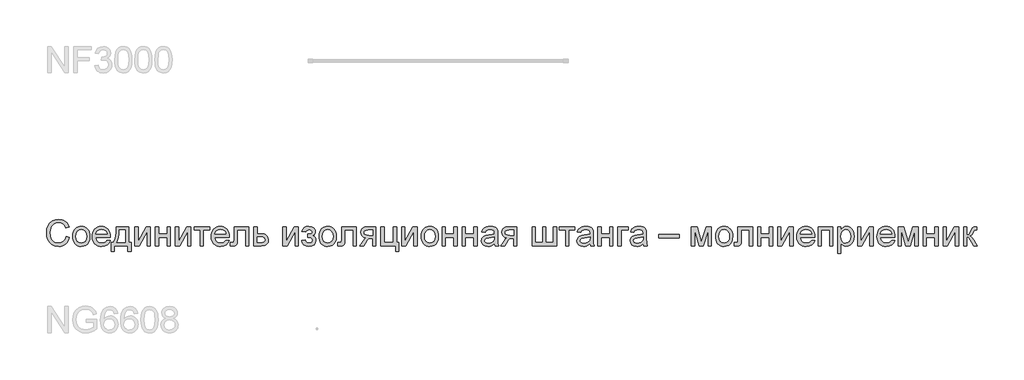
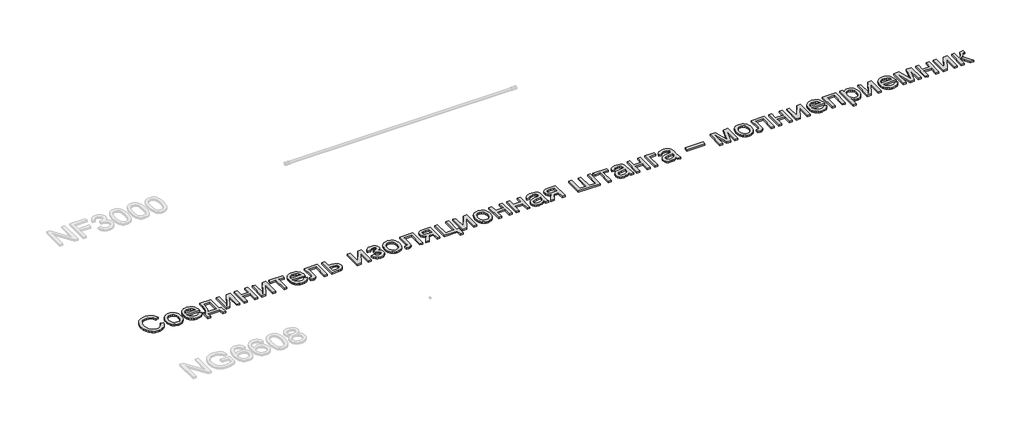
# One storey, part 22 of 124: 1 proxy.
"""IFC4 building model written with IfcOpenShell, lengths in millimetres."""

import ifcopenshell
import ifcopenshell.guid

model = None  # the IFC model being written
_history = None  # IfcOwnerHistory: only IFC2X3 demands one
_inside = {}  # id of a spatial element -> (the spatial element, [elements in it])
_under = {}  # id of a project, library or spatial element -> (it, [spatial elements below it])
_declared = {}  # id of a project -> (the project, [libraries it declares])
_typed = {}  # id of a type object -> (the type object, [elements of that type])
_made_of = {}  # id of a material, layer set ... -> (it, [elements and type objects made of it])


def new_model(schema):
    """Start an empty IFC model of exactly this schema.

    Asked for "IFC4X3", IfcOpenShell would pick the latest addendum, in which some entities
    have other attributes; the version numbers below select the first issue.
    IFC2X3 requires an IfcOwnerHistory on every rooted entity: one is made here for all.
    """
    global model, _history
    if schema == "IFC4X3":
        model = ifcopenshell.file(schema_version=(4, 3, 0, 0))
    else:
        model = ifcopenshell.file(schema=schema)
    _inside.clear()
    _under.clear()
    _declared.clear()
    _typed.clear()
    _made_of.clear()
    _history = None
    if model.schema == "IFC2X3":
        org = make("IfcOrganization", Name="unknown")
        user = make(
            "IfcPersonAndOrganization",
            ThePerson=make("IfcPerson", FamilyName="unknown"),
            TheOrganization=org,
        )
        app = make(
            "IfcApplication",
            ApplicationDeveloper=org,
            Version="unknown",
            ApplicationFullName="unknown",
            ApplicationIdentifier="unknown",
        )
        _history = make(
            "IfcOwnerHistory",
            OwningUser=user,
            OwningApplication=app,
            ChangeAction="ADDED",
            CreationDate=0,
        )
    return model


def make(cls, **values):
    """One entity of the class cls with the attributes given. An attribute that is None is left unset."""
    return model.create_entity(
        cls, **{name: value for name, value in values.items() if value is not None}
    )


def rooted(cls, **values):
    """An entity with a GlobalId (a new one), such as an element, a storey or a relation."""
    return make(cls, GlobalId=ifcopenshell.guid.new(), OwnerHistory=_history, **values)


def si_unit(unit_type, name, prefix=None):
    """IfcSIUnit, for example si_unit("LENGTHUNIT", "METRE", prefix="MILLI")."""
    return make("IfcSIUnit", UnitType=unit_type, Prefix=prefix, Name=name)


def assignment(units):
    """IfcUnitAssignment: the units of a project."""
    return None if units is None else make("IfcUnitAssignment", Units=units)


def point(xyz):
    """IfcCartesianPoint."""
    return None if xyz is None else make("IfcCartesianPoint", Coordinates=xyz)


def direction(xyz):
    """IfcDirection."""
    return None if xyz is None else make("IfcDirection", DirectionRatios=xyz)


def frame(location, z_axis=None, x_axis=None):
    """IfcAxis2Placement3D, a coordinate frame: its origin and axes. An axis left out is left unset."""
    return make(
        "IfcAxis2Placement3D",
        Location=point(location),
        Axis=direction(z_axis),
        RefDirection=direction(x_axis),
    )


def origin():
    """The frame at (0, 0, 0) with its axes left unset."""
    return frame((0.0, 0.0, 0.0))


def origin_with_axes():
    """The frame at (0, 0, 0) with the z axis (0, 0, 1) and the x axis (1, 0, 0) written out."""
    return frame((0.0, 0.0, 0.0), z_axis=(0.0, 0.0, 1.0), x_axis=(1.0, 0.0, 0.0))


def place(relative_to, where):
    """IfcLocalPlacement: puts the frame where relative to a parent placement (None: the world)."""
    return make(
        "IfcLocalPlacement", PlacementRelTo=relative_to, RelativePlacement=where
    )


def context(
    kind, dimensions, precision=None, world=None, true_north=None, identifier=None
):
    """IfcGeometricRepresentationContext, for example the 3D "Model" context."""
    return make(
        "IfcGeometricRepresentationContext",
        ContextIdentifier=identifier,
        ContextType=kind,
        CoordinateSpaceDimension=dimensions,
        Precision=precision,
        WorldCoordinateSystem=world,
        TrueNorth=true_north,
    )


def project(units=None, contexts=None):
    """IfcProject with its units and contexts."""
    return rooted(
        "IfcProject",
        Name="project",
        RepresentationContexts=contexts,
        UnitsInContext=assignment(units),
    )


def spatial(cls, under=None, at=None, **own):
    """A site, building, storey or space (cls), placed at a placement, below another one or the project."""
    s = rooted(cls, ObjectPlacement=at, **own)
    if under is not None:
        _under.setdefault(under.id(), (under, []))[1].append(s)
    return s


def polyline(points):
    """IfcPolyline through the points."""
    return make("IfcPolyline", Points=[point(p) for p in points])


def outline(outer, holes=None, kind="AREA"):
    """IfcArbitraryClosedProfileDef: a profile drawn as a closed curve; with holes, ...WithVoids."""
    if holes is None:
        return make("IfcArbitraryClosedProfileDef", ProfileType=kind, OuterCurve=outer)
    return make(
        "IfcArbitraryProfileDefWithVoids",
        ProfileType=kind,
        OuterCurve=outer,
        InnerCurves=holes,
    )


def extrude(swept, where, along, depth):
    """IfcExtrudedAreaSolid: the profile swept, set in the frame where, extruded along a direction by depth."""
    return make(
        "IfcExtrudedAreaSolid",
        SweptArea=swept,
        Position=where,
        ExtrudedDirection=direction(along),
        Depth=depth,
    )


def shape(context_of_items, identifier, shape_type, items):
    """IfcShapeRepresentation: the items that make up one representation, for example the "Body"."""
    return make(
        "IfcShapeRepresentation",
        ContextOfItems=context_of_items,
        RepresentationIdentifier=identifier,
        RepresentationType=shape_type,
        Items=items,
    )


def made_of(thing, what):
    """Note that an element or type object is made of a material, layer set ...; save() writes the relation."""
    if what is not None:
        _made_of.setdefault(what.id(), (what, []))[1].append(thing)
    return thing


def element(
    cls,
    number,
    at=None,
    inside=None,
    cuts=None,
    type_object=None,
    material=None,
    context=None,
    identifier="Body",
    shape_type=None,
    held_by="IfcProductDefinitionShape",
    body=None,
    shapes=None,
    **own,
):
    """One element of the class cls, such as IfcWall. Its Tag is "e" and its number.

    at: its placement. inside: the storey or other place that contains it. cuts: it is an
    opening in that element (IfcRelVoidsElement). A single representation is given by context,
    identifier, shape_type and body (its items); several are given by shapes. held_by: the class
    of the entity that holds the representations. save() writes the other relations.
    """
    e = rooted(cls, Tag="e%d" % number, ObjectPlacement=at, **own)
    if body is not None:
        shapes = [shape(context, identifier, shape_type, body)]
    if shapes is not None:
        e.Representation = make(held_by, Representations=shapes)
    if inside is not None:
        _inside.setdefault(inside.id(), (inside, []))[1].append(e)
    if cuts is not None:
        rooted(
            "IfcRelVoidsElement", RelatingBuildingElement=cuts, RelatedOpeningElement=e
        )
    if type_object is not None:
        _typed.setdefault(type_object.id(), (type_object, []))[1].append(e)
    return made_of(e, material)


def aggregate(whole, parts):
    """IfcRelAggregates: a whole, such as a stair, and the parts it consists of."""
    return rooted("IfcRelAggregates", RelatingObject=whole, RelatedObjects=parts)


def save(model, path):
    """Write the relations noted so far, then the file.

    IfcRelAggregates (storeys below a building ...), IfcRelContainedInSpatialStructure (elements
    in a storey), IfcRelDefinesByType, IfcRelAssociatesMaterial and IfcRelDeclares: one each for
    every whole, place, type object, material and project.
    """
    for whole, parts in _under.values():
        aggregate(whole, parts)
    for where, things in _inside.values():
        rooted(
            "IfcRelContainedInSpatialStructure",
            RelatedElements=things,
            RelatingStructure=where,
        )
    for kind, things in _typed.values():
        rooted("IfcRelDefinesByType", RelatedObjects=things, RelatingType=kind)
    for what, things in _made_of.values():
        rooted("IfcRelAssociatesMaterial", RelatedObjects=things, RelatingMaterial=what)
    for by, libraries in _declared.values():
        rooted("IfcRelDeclares", RelatingContext=by, RelatedDefinitions=libraries)
    model.write(path)


model = new_model("IFC4")

# Units and contexts
model_context = context("Model", 3, world=origin())
ifc_project = project(units=[si_unit("LENGTHUNIT", "METRE", prefix="MILLI")], contexts=[model_context])

# Site, building, storey
site = spatial("IfcSite", under=ifc_project)
building = spatial("IfcBuilding", under=site)
storey = spatial("IfcBuildingStorey", under=building, Name="Этаж 01", Elevation=0.0)

# Proxy
placement = place(None, origin())
element("IfcBuildingElementProxy", 1, Name="300", ObjectType="300", at=placement, inside=storey, context=model_context, shape_type="SweptSolid", body=[
    extrude(outline(polyline([(25611.7220969, -106441.7459169), (25649.3932132, -106451.4580016), (25641.9390043, -106474.8851869), (25632.0107889, -106495.3555206), (25619.6085672, -106512.8690029), (25604.732339, -106527.4256336), (25587.7177967, -106538.8690629), (25568.9006327, -106547.042941), (25548.2808468, -106551.9472678), (25525.8584392, -106553.5820434), (25482.1632553, -106548.6340306), (25447.4627861, -106533.7899921), (25420.8649178, -106509.5649627), (25401.4775367, -106476.4739772), (25389.6409335, -106437.5704562), (25385.6953991, -106395.9078203), (25390.1559683, -106351.964316), (25403.5376758, -106314.0172882), (25425.141546, -106283.2715504), (25454.268603, -106260.9319163), (25488.8127223, -106247.3294795), (25526.6677796, -106242.7953339), (25567.9717306, -106248.6630517), (25585.9404668, -106255.997699), (25602.1203768, -106266.2662052), (25616.2447462, -106279.1972573), (25628.0468605, -106294.5195424), (25644.6843237, -106332.3378115), (25607.0132074, -106341.3141322), (25593.9533965, -106313.8425442), (25576.1111198, -106294.997789), (25553.2656479, -106284.0992849), (25525.1962516, -106280.4664502), (25492.8410302, -106284.4947581), (25466.261556, -106296.5796816), (25446.0924256, -106315.4520279), (25432.9682355, -106339.8426042), (25425.7669454, -106367.4153598), (25423.3665154, -106395.8342439), (25426.2084038, -106430.6358806), (25434.734069, -106460.7286278), (25449.2654078, -106484.9628543), (25470.124317, -106502.1889287), (25495.1310956, -106512.4804275), (25522.1060429, -106515.9109271), (25553.5507564, -106511.2388258), (25579.7531515, -106497.2225218), (25599.5360058, -106474.0091679), (25611.7220969, -106441.7459169)])), origin_with_axes(), (0.0, 0.0, 1.0), 20.0),
    extrude(outline(polyline([(25687.0643295, -106438.2142497), (25689.1014761, -106409.5516438), (25695.2129157, -106384.8529663), (25705.3986485, -106364.1182174), (25719.6586743, -106347.3473969), (25734.0152692, -106336.6282353), (25749.8617861, -106328.9716913), (25767.1982251, -106324.3777649), (25786.0245862, -106322.846456), (25806.8076197, -106324.7111579), (25825.5994919, -106330.3052635), (25842.4002027, -106339.6287728), (25857.2097523, -106352.6816859), (25869.2969751, -106369.0225442), (25877.9307057, -106388.2098895), (25883.110944, -106410.2437218), (25884.8376901, -106435.124041), (25881.7842696, -106473.1814334), (25872.6240079, -106502.1521405), (25857.6236195, -106523.8479812), (25837.049819, -106540.0807742), (25812.6132574, -106550.2067261), (25786.0245862, -106553.5820434), (25764.9380501, -106551.7242393), (25745.971434, -106546.1508271), (25729.1247379, -106536.8618067), (25714.3979618, -106523.8571782), (25702.4394977, -106507.3576707), (25693.8977376, -106487.5840135), (25688.7726815, -106464.5362065), (25687.0643295, -106438.2142497)]), holes=[polyline([(25724.7354458, -106438.1406733), (25729.0948475, -106472.2341372), (25742.1730524, -106496.523546), (25761.8547391, -106511.0640818), (25786.0245862, -106515.9109271), (25810.0840687, -106511.0364907), (25829.7289673, -106496.4131814), (25842.8071722, -106471.8018759), (25847.1665738, -106436.963451), (25842.779581, -106403.8632684), (25829.6186027, -106379.9049535), (25809.946113, -106365.3644176), (25786.0245862, -106360.5175724), (25761.8547391, -106365.3460235), (25742.1730524, -106379.8313771), (25729.0948475, -106404.0656035), (25724.7354458, -106438.1406733)])]), origin_with_axes(), (0.0, 0.0, 1.0), 20.0),
    extrude(outline(polyline([(26082.1695923, -106482.9487003), (26119.1049447, -106487.6575899), (26105.7968135, -106515.4878628), (26084.5608253, -106536.2915897), (26055.8752267, -106549.25943), (26020.2182644, -106553.5820434), (25996.8439621, -106551.7173416), (25976.0172426, -106546.123236), (25957.738106, -106536.7997267), (25942.0065522, -106523.7468136), (25929.3560101, -106507.3277803), (25920.3199086, -106487.9059102), (25914.8982477, -106465.4812034), (25913.0910274, -106440.0536597), (25914.9166418, -106413.7638926), (25920.393485, -106390.5919255), (25929.521557, -106370.5377582), (25942.3008578, -106353.6013908), (25957.9910249, -106340.1461069), (25975.8516957, -106330.5351897), (25995.8828704, -106324.7686395), (26018.0845488, -106322.846456), (26039.5711566, -106324.7640409), (26059.0022237, -106330.5167956), (26076.3777502, -106340.1047201), (26091.697736, -106353.5278144), (26104.2034246, -106370.4273936), (26113.1360593, -106390.4447727), (26118.4956401, -106413.5799516), (26120.282167, -106439.8329305), (26120.0614379, -106449.9864736), (25950.7621437, -106449.9864736), (25957.282852, -106478.1846285), (25972.4303932, -106498.9147789), (25994.2917807, -106511.6618901), (26020.9540284, -106515.9109271), (26041.0035971, -106513.9427584), (26057.8893807, -106508.0382524), (26071.6113791, -106497.8295271), (26082.1695923, -106482.9487003)]), holes=[polyline([(25950.7621437, -106412.3153573), (26082.6110507, -106412.3153573), (26077.5158851, -106392.4129413), (26067.5278889, -106378.1759081), (26045.5653338, -106364.9321563), (26017.937396, -106360.5175724), (25992.5443413, -106364.0400425), (25971.5474764, -106374.6074528), (25956.9517582, -106391.0793691), (25950.7621437, -106412.3153573)])]), origin_with_axes(), (0.0, 0.0, 1.0), 20.0),
    extrude(outline(polyline([(26190.9155101, -106327.5553456), (26332.1821963, -106327.5553456), (26332.1821963, -106511.2020376), (26360.4355335, -106511.2020376), (26360.4355335, -106610.0887179), (26322.7644172, -106610.0887179), (26322.7644172, -106548.8731539), (26167.3710624, -106548.8731539), (26167.3710624, -106610.0887179), (26129.6999461, -106610.0887179), (26129.6999461, -106511.2020376), (26153.2443938, -106511.2020376), (26170.3601036, -106480.2723588), (26182.3438596, -106439.3546839), (26189.1956618, -106388.4490128), (26190.9155101, -106327.5553456)]), holes=[polyline([(26223.8777369, -106365.2264619), (26220.7875281, -106411.349667), (26215.048569, -106451.0533314), (26206.6608595, -106484.3374549), (26195.6243997, -106511.2020376), (26294.51108, -106511.2020376), (26294.51108, -106365.2264619), (26223.8777369, -106365.2264619)])]), origin_with_axes(), (0.0, 0.0, 1.0), 20.0),
    extrude(outline(polyline([(26402.8155393, -106327.5553456), (26440.4866556, -106327.5553456), (26440.4866556, -106496.339605), (26533.0457656, -106327.5553456), (26581.7533418, -106327.5553456), (26581.7533418, -106548.8731539), (26544.0822255, -106548.8731539), (26544.0822255, -106381.1189641), (26452.1117267, -106548.8731539), (26402.8155393, -106548.8731539), (26402.8155393, -106327.5553456)])), origin_with_axes(), (0.0, 0.0, 1.0), 20.0),
    extrude(outline(polyline([(26638.2600163, -106327.5553456), (26675.9311326, -106327.5553456), (26675.9311326, -106412.3153573), (26774.8178129, -106412.3153573), (26774.8178129, -106327.5553456), (26812.4889292, -106327.5553456), (26812.4889292, -106548.8731539), (26774.8178129, -106548.8731539), (26774.8178129, -106449.9864736), (26675.9311326, -106449.9864736), (26675.9311326, -106548.8731539), (26638.2600163, -106548.8731539), (26638.2600163, -106327.5553456)])), origin_with_axes(), (0.0, 0.0, 1.0), 20.0),
    extrude(outline(polyline([(26868.9956036, -106327.5553456), (26906.6667199, -106327.5553456), (26906.6667199, -106496.339605), (26999.2258299, -106327.5553456), (27047.9334061, -106327.5553456), (27047.9334061, -106548.8731539), (27010.2622898, -106548.8731539), (27010.2622898, -106381.1189641), (26918.291791, -106548.8731539), (26868.9956036, -106548.8731539), (26868.9956036, -106327.5553456)])), origin_with_axes(), (0.0, 0.0, 1.0), 20.0),
    extrude(outline(polyline([(27085.6045224, -106327.5553456), (27264.5423248, -106327.5553456), (27264.5423248, -106365.2264619), (27193.9089818, -106365.2264619), (27193.9089818, -106548.8731539), (27156.2378655, -106548.8731539), (27156.2378655, -106365.2264619), (27085.6045224, -106365.2264619), (27085.6045224, -106327.5553456)])), origin_with_axes(), (0.0, 0.0, 1.0), 20.0),
    extrude(outline(polyline([(27452.456448, -106482.9487003), (27489.3918003, -106487.6575899), (27476.0836691, -106515.4878628), (27454.847681, -106536.2915897), (27426.1620824, -106549.25943), (27390.50512, -106553.5820434), (27367.1308177, -106551.7173416), (27346.3040983, -106546.123236), (27328.0249616, -106536.7997267), (27312.2934078, -106523.7468136), (27299.6428657, -106507.3277803), (27290.6067642, -106487.9059102), (27285.1851033, -106465.4812034), (27283.377883, -106440.0536597), (27285.2034974, -106413.7638926), (27290.6803406, -106390.5919255), (27299.8084126, -106370.5377582), (27312.5877134, -106353.6013908), (27328.2778805, -106340.1461069), (27346.1385514, -106330.5351897), (27366.169726, -106324.7686395), (27388.3714044, -106322.846456), (27409.8580122, -106324.7640409), (27429.2890793, -106330.5167956), (27446.6646058, -106340.1047201), (27461.9845917, -106353.5278144), (27474.4902802, -106370.4273936), (27483.4229149, -106390.4447727), (27488.7824957, -106413.5799516), (27490.5690227, -106439.8329305), (27490.3482935, -106449.9864736), (27321.0489993, -106449.9864736), (27327.5697077, -106478.1846285), (27342.7172488, -106498.9147789), (27364.5786364, -106511.6618901), (27391.240884, -106515.9109271), (27411.2904527, -106513.9427584), (27428.1762363, -106508.0382524), (27441.8982347, -106497.8295271), (27452.456448, -106482.9487003)]), holes=[polyline([(27321.0489993, -106412.3153573), (27452.8979064, -106412.3153573), (27447.8027407, -106392.4129413), (27437.8147446, -106378.1759081), (27415.8521895, -106364.9321563), (27388.2242516, -106360.5175724), (27362.8311969, -106364.0400425), (27341.834332, -106374.6074528), (27327.2386139, -106391.0793691), (27321.0489993, -106412.3153573)])]), origin_with_axes(), (0.0, 0.0, 1.0), 20.0),
    extrude(outline(polyline([(27547.0756971, -106327.5553456), (27716.5957205, -106327.5553456), (27716.5957205, -106548.6524247), (27678.9246042, -106548.6524247), (27678.9246042, -106365.2264619), (27584.7468134, -106365.2264619), (27584.7468134, -106470.8085945), (27582.2084277, -106519.5161707), (27577.4535529, -106530.5434335), (27568.2657001, -106540.0807742), (27554.3229724, -106546.675059), (27535.3034733, -106548.8731539), (27504.6956913, -106546.9601675), (27504.6956913, -106511.2020376), (27521.5446867, -106511.2020376), (27538.5776231, -106508.884381), (27545.38344, -106501.5267411), (27547.0756971, -106468.6748789), (27547.0756971, -106327.5553456)])), origin_with_axes(), (0.0, 0.0, 1.0), 20.0),
    extrude(outline(polyline([(27773.102395, -106327.5553456), (27810.7735113, -106327.5553456), (27810.7735113, -106407.6064677), (27854.1835867, -106407.6064677), (27891.8179148, -106412.3245543), (27906.965456, -106418.2221626), (27919.6665819, -106426.4788141), (27929.7097603, -106436.8094004), (27936.8834592, -106448.9288128), (27942.6224184, -106478.5341164), (27937.7387849, -106505.4906696), (27923.0878844, -106528.234974), (27911.8559872, -106537.2641777), (27897.6948297, -106543.7136089), (27860.5847334, -106548.8731539), (27773.102395, -106548.8731539), (27773.102395, -106327.5553456)]), holes=[polyline([(27810.7735113, -106511.2020376), (27845.94303, -106511.2020376), (27873.230677, -106509.2246719), (27891.3764564, -106503.2925747), (27901.5575906, -106493.1666228), (27904.951302, -106478.6076928), (27902.4405074, -106466.3020401), (27894.9081236, -106455.4311271), (27878.767301, -106447.8159698), (27850.4311904, -106445.277584), (27810.7735113, -106445.277584), (27810.7735113, -106511.2020376)])]), origin_with_axes(), (0.0, 0.0, 1.0), 20.0),
    extrude(outline(polyline([(28107.4335522, -106327.5553456), (28145.1046685, -106327.5553456), (28145.1046685, -106496.339605), (28237.6637785, -106327.5553456), (28286.3713546, -106327.5553456), (28286.3713546, -106548.8731539), (28248.7002383, -106548.8731539), (28248.7002383, -106381.1189641), (28156.7297395, -106548.8731539), (28107.4335522, -106548.8731539), (28107.4335522, -106327.5553456)])), origin_with_axes(), (0.0, 0.0, 1.0), 20.0),
    extrude(outline(polyline([(28394.675814, -106449.9864736), (28394.675814, -106412.3153573), (28424.4006792, -106410.8438293), (28439.4102646, -106403.0079428), (28444.7077654, -106395.6594999), (28446.4735989, -106386.637194), (28444.1099571, -106375.9226309), (28437.0190317, -106367.6176949), (28426.194104, -106362.292603), (28412.6284554, -106360.5175724), (28398.915654, -106362.2834059), (28387.4285387, -106367.5809067), (28378.1671095, -106376.4100745), (28371.1313663, -106388.7709096), (28328.7513605, -106384.06202), (28339.9901554, -106357.2802108), (28357.0782741, -106338.150347), (28380.0157165, -106326.6724288), (28408.8024826, -106322.846456), (28440.2931814, -106327.5093603), (28464.1319347, -106341.4980732), (28479.1415201, -106361.9615092), (28484.1447153, -106386.0485828), (28482.3650861, -106398.4094179), (28477.0261986, -106409.4458777), (28468.1280529, -106419.1579624), (28455.6706488, -106427.5456719), (28470.2111847, -106438.0119146), (28480.5762599, -106451.0165432), (28486.7842686, -106466.5963457), (28488.8536048, -106484.7881103), (28483.6020893, -106512.5172157), (28467.8475429, -106534.4889679), (28442.6568232, -106548.8087745), (28409.0967882, -106553.5820434), (28376.2725172, -106549.1674595), (28351.155374, -106535.9237077), (28333.7453586, -106513.8507879), (28324.042471, -106482.9487003), (28366.4224768, -106478.2398108), (28372.7684412, -106494.1691012), (28383.418625, -106506.0516896), (28397.1406234, -106513.4461178), (28412.7020318, -106515.9109271), (28427.85877, -106513.5472853), (28440.219605, -106506.4563598), (28448.4417676, -106495.6866144), (28451.1824885, -106482.2865128), (28449.4810343, -106471.6731172), (28444.3766716, -106462.4944614), (28429.882121, -106451.89946), (28402.0334539, -106449.7657444), (28394.675814, -106449.9864736)])), origin_with_axes(), (0.0, 0.0, 1.0), 20.0),
    extrude(outline(polyline([(28526.5247211, -106438.2142497), (28528.5618676, -106409.5516438), (28534.6733073, -106384.8529663), (28544.85904, -106364.1182174), (28559.1190659, -106347.3473969), (28573.4756607, -106336.6282353), (28589.3221777, -106328.9716913), (28606.6586167, -106324.3777649), (28625.4849778, -106322.846456), (28646.2680113, -106324.7111579), (28665.0598834, -106330.3052635), (28681.8605943, -106339.6287728), (28696.6701439, -106352.6816859), (28708.7573667, -106369.0225442), (28717.3910972, -106388.2098895), (28722.5713356, -106410.2437218), (28724.2980817, -106435.124041), (28721.2446611, -106473.1814334), (28712.0843995, -106502.1521405), (28697.0840111, -106523.8479812), (28676.5102105, -106540.0807742), (28652.073649, -106550.2067261), (28625.4849778, -106553.5820434), (28604.3984417, -106551.7242393), (28585.4318256, -106546.1508271), (28568.5851295, -106536.8618067), (28553.8583533, -106523.8571782), (28541.8998892, -106507.3576707), (28533.3581292, -106487.5840135), (28528.2330731, -106464.5362065), (28526.5247211, -106438.2142497)]), holes=[polyline([(28564.1958374, -106438.1406733), (28568.555239, -106472.2341372), (28581.633444, -106496.523546), (28601.3151307, -106511.0640818), (28625.4849778, -106515.9109271), (28649.5444603, -106511.0364907), (28669.1893588, -106496.4131814), (28682.2675638, -106471.8018759), (28686.6269654, -106436.963451), (28682.2399726, -106403.8632684), (28669.0789942, -106379.9049535), (28649.4065045, -106365.3644176), (28625.4849778, -106360.5175724), (28601.3151307, -106365.3460235), (28581.633444, -106379.8313771), (28568.555239, -106404.0656035), (28564.1958374, -106438.1406733)])]), origin_with_axes(), (0.0, 0.0, 1.0), 20.0),
    extrude(outline(polyline([(28785.5136457, -106327.5553456), (28955.0336691, -106327.5553456), (28955.0336691, -106548.6524247), (28917.3625528, -106548.6524247), (28917.3625528, -106365.2264619), (28823.184762, -106365.2264619), (28823.184762, -106470.8085945), (28820.6463762, -106519.5161707), (28815.8915015, -106530.5434335), (28806.7036486, -106540.0807742), (28792.760921, -106546.675059), (28773.7414219, -106548.8731539), (28743.1336399, -106546.9601675), (28743.1336399, -106511.2020376), (28759.9826352, -106511.2020376), (28777.0155716, -106508.884381), (28783.8213885, -106501.5267411), (28785.5136457, -106468.6748789), (28785.5136457, -106327.5553456)])), origin_with_axes(), (0.0, 0.0, 1.0), 20.0),
    extrude(outline(polyline([(29181.0603669, -106327.5553456), (29181.0603669, -106548.8731539), (29143.3892506, -106548.8731539), (29143.3892506, -106464.1131422), (29122.8614353, -106464.1131422), (29094.9024036, -106468.8956081), (29083.7371851, -106479.3250627), (29068.6356292, -106501.0484945), (29038.6164584, -106548.8731539), (28995.0592302, -106548.8731539), (29032.8774993, -106488.3933539), (29049.5793418, -106466.6883162), (29064.9568092, -106457.0498079), (29039.2050696, -106449.1587391), (29021.1052754, -106434.1675478), (29010.3999094, -106414.2283437), (29006.831454, -106391.4932363), (29011.7058904, -106365.7047085), (29026.3291997, -106345.2872578), (29050.1863471, -106331.9883236), (29082.7622978, -106327.5553456), (29181.0603669, -106327.5553456)]), holes=[polyline([(29143.3892506, -106365.2264619), (29093.7251813, -106365.2264619), (29068.0746092, -106367.4061627), (29053.5156792, -106373.9452652), (29046.7558475, -106383.4090295), (29044.5025703, -106394.3627159), (29047.8227053, -106408.7193108), (29057.7831103, -106418.6797158), (29076.1864071, -106424.5014484), (29104.8352175, -106426.4420259), (29143.3892506, -106426.4420259), (29143.3892506, -106365.2264619)])]), origin_with_axes(), (0.0, 0.0, 1.0), 20.0),
    extrude(outline(polyline([(29237.5670414, -106327.5553456), (29275.2381577, -106327.5553456), (29275.2381577, -106511.2020376), (29383.5426171, -106511.2020376), (29383.5426171, -106327.5553456), (29421.2137334, -106327.5553456), (29421.2137334, -106511.2020376), (29444.7581811, -106511.2020376), (29444.7581811, -106610.0887179), (29407.0870648, -106610.0887179), (29407.0870648, -106548.8731539), (29237.5670414, -106548.8731539), (29237.5670414, -106327.5553456)])), origin_with_axes(), (0.0, 0.0, 1.0), 20.0),
    extrude(outline(polyline([(29477.7204078, -106327.5553456), (29515.3915241, -106327.5553456), (29515.3915241, -106496.339605), (29607.9506341, -106327.5553456), (29656.6582103, -106327.5553456), (29656.6582103, -106548.8731539), (29618.987094, -106548.8731539), (29618.987094, -106381.1189641), (29527.0165952, -106548.8731539), (29477.7204078, -106548.8731539), (29477.7204078, -106327.5553456)])), origin_with_axes(), (0.0, 0.0, 1.0), 20.0),
    extrude(outline(polyline([(29703.7471057, -106438.2142497), (29705.7842522, -106409.5516438), (29711.8956919, -106384.8529663), (29722.0814246, -106364.1182174), (29736.3414504, -106347.3473969), (29750.6980453, -106336.6282353), (29766.5445622, -106328.9716913), (29783.8810013, -106324.3777649), (29802.7073624, -106322.846456), (29823.4903958, -106324.7111579), (29842.282268, -106330.3052635), (29859.0829789, -106339.6287728), (29873.8925284, -106352.6816859), (29885.9797512, -106369.0225442), (29894.6134818, -106388.2098895), (29899.7937202, -106410.2437218), (29901.5204663, -106435.124041), (29898.4670457, -106473.1814334), (29889.306784, -106502.1521405), (29874.3063957, -106523.8479812), (29853.7325951, -106540.0807742), (29829.2960336, -106550.2067261), (29802.7073624, -106553.5820434), (29781.6208263, -106551.7242393), (29762.6542101, -106546.1508271), (29745.807514, -106536.8618067), (29731.0807379, -106523.8571782), (29719.1222738, -106507.3576707), (29710.5805137, -106487.5840135), (29705.4554577, -106464.5362065), (29703.7471057, -106438.2142497)]), holes=[polyline([(29741.418222, -106438.1406733), (29745.7776236, -106472.2341372), (29758.8558285, -106496.523546), (29778.5375153, -106511.0640818), (29802.7073624, -106515.9109271), (29826.7668449, -106511.0364907), (29846.4117434, -106496.4131814), (29859.4899483, -106471.8018759), (29863.84935, -106436.963451), (29859.4623572, -106403.8632684), (29846.3013788, -106379.9049535), (29826.6288891, -106365.3644176), (29802.7073624, -106360.5175724), (29778.5375153, -106365.3460235), (29758.8558285, -106379.8313771), (29745.7776236, -106404.0656035), (29741.418222, -106438.1406733)])]), origin_with_axes(), (0.0, 0.0, 1.0), 20.0),
    extrude(outline(polyline([(29943.9004721, -106327.5553456), (29981.5715884, -106327.5553456), (29981.5715884, -106412.3153573), (30080.4582687, -106412.3153573), (30080.4582687, -106327.5553456), (30118.129385, -106327.5553456), (30118.129385, -106548.8731539), (30080.4582687, -106548.8731539), (30080.4582687, -106449.9864736), (29981.5715884, -106449.9864736), (29981.5715884, -106548.8731539), (29943.9004721, -106548.8731539), (29943.9004721, -106327.5553456)])), origin_with_axes(), (0.0, 0.0, 1.0), 20.0),
    extrude(outline(polyline([(30174.6360595, -106327.5553456), (30212.3071758, -106327.5553456), (30212.3071758, -106412.3153573), (30311.1938561, -106412.3153573), (30311.1938561, -106327.5553456), (30348.8649724, -106327.5553456), (30348.8649724, -106548.8731539), (30311.1938561, -106548.8731539), (30311.1938561, -106449.9864736), (30212.3071758, -106449.9864736), (30212.3071758, -106548.8731539), (30174.6360595, -106548.8731539), (30174.6360595, -106327.5553456)])), origin_with_axes(), (0.0, 0.0, 1.0), 20.0),
    extrude(outline(polyline([(30546.638333, -106520.6198167), (30528.6397064, -106536.0524664), (30510.1076509, -106546.1508271), (30490.6191022, -106551.7242393), (30469.750996, -106553.5820434), (30438.2694943, -106549.1122772), (30415.0469433, -106535.7029785), (30400.7271367, -106515.34071), (30395.9538678, -106490.0120347), (30397.7564896, -106474.395444), (30403.1643549, -106460.213593), (30411.5060791, -106448.0734872), (30422.1102776, -106438.5821317), (30448.4874167, -106426.2212967), (30481.0817615, -106420.555914), (30519.5990064, -106414.5962256), (30546.4176038, -106407.6064677), (30546.638333, -106399.2187582), (30544.0447649, -106382.4065511), (30536.2640608, -106371.4068794), (30518.8632424, -106363.2398991), (30494.6198189, -106360.5175724), (30472.1790172, -106362.3293912), (30456.5072442, -106367.7648477), (30445.8202722, -106377.8172232), (30438.3338736, -106393.4797991), (30400.6627573, -106388.7709096), (30407.2018598, -106368.1695179), (30416.9599297, -106351.9827101), (30430.847475, -106339.6034809), (30449.7750037, -106330.4248251), (30472.9239782, -106324.7410483), (30499.4758612, -106322.846456), (30524.9424923, -106324.5203191), (30545.1300168, -106329.5419084), (30560.3511344, -106337.0926863), (30570.9185447, -106346.3541155), (30577.9266967, -106357.8044426), (30582.4700393, -106371.9219142), (30584.3094493, -106404.884141), (30584.3094493, -106451.7523072), (30586.2224357, -106517.1985141), (30593.7272284, -106548.8731539), (30556.0561121, -106548.8731539), (30546.638333, -106520.6198167)]), holes=[polyline([(30546.638333, -106445.277584), (30485.8642274, -106456.8290787), (30453.4538236, -106462.9359198), (30438.775332, -106472.8687337), (30433.6249841, -106487.3632843), (30436.4300843, -106498.565291), (30444.8453849, -106507.7439468), (30458.686945, -106513.869182), (30477.7708235, -106515.9109271), (30498.0043333, -106513.6576499), (30515.8833982, -106506.8978182), (30530.3779488, -106496.9374132), (30540.4579155, -106485.0824159), (30544.9276817, -106472.8687337), (30546.4176038, -106455.9461619), (30546.638333, -106445.277584)])]), origin_with_axes(), (0.0, 0.0, 1.0), 20.0),
    extrude(outline(polyline([(30805.6272576, -106327.5553456), (30805.6272576, -106548.8731539), (30767.9561413, -106548.8731539), (30767.9561413, -106464.1131422), (30747.428326, -106464.1131422), (30719.4692943, -106468.8956081), (30708.3040758, -106479.3250627), (30693.2025199, -106501.0484945), (30663.1833491, -106548.8731539), (30619.6261209, -106548.8731539), (30657.44439, -106488.3933539), (30674.1462325, -106466.6883162), (30689.5236999, -106457.0498079), (30663.7719603, -106449.1587391), (30645.6721661, -106434.1675478), (30634.9668001, -106414.2283437), (30631.3983447, -106391.4932363), (30636.2727811, -106365.7047085), (30650.8960904, -106345.2872578), (30674.7532378, -106331.9883236), (30707.3291885, -106327.5553456), (30805.6272576, -106327.5553456)]), holes=[polyline([(30767.9561413, -106365.2264619), (30718.292072, -106365.2264619), (30692.6414999, -106367.4061627), (30678.0825699, -106373.9452652), (30671.3227382, -106383.4090295), (30669.069461, -106394.3627159), (30672.389596, -106408.7193108), (30682.350001, -106418.6797158), (30700.7532978, -106424.5014484), (30729.4021082, -106426.4420259), (30767.9561413, -106426.4420259), (30767.9561413, -106365.2264619)])]), origin_with_axes(), (0.0, 0.0, 1.0), 20.0),
    extrude(outline(polyline([(30979.8561705, -106327.5553456), (31017.5272868, -106327.5553456), (31017.5272868, -106511.2020376), (31102.2872985, -106511.2020376), (31102.2872985, -106327.5553456), (31139.9584148, -106327.5553456), (31139.9584148, -106511.2020376), (31224.7184265, -106511.2020376), (31224.7184265, -106327.5553456), (31262.3895428, -106327.5553456), (31262.3895428, -106548.8731539), (30979.8561705, -106548.8731539), (30979.8561705, -106327.5553456)])), origin_with_axes(), (0.0, 0.0, 1.0), 20.0),
    extrude(outline(polyline([(31295.3517696, -106327.5553456), (31474.2895721, -106327.5553456), (31474.2895721, -106365.2264619), (31403.656229, -106365.2264619), (31403.656229, -106548.8731539), (31365.9851127, -106548.8731539), (31365.9851127, -106365.2264619), (31295.3517696, -106365.2264619), (31295.3517696, -106327.5553456)])), origin_with_axes(), (0.0, 0.0, 1.0), 20.0),
    extrude(outline(polyline([(31648.518485, -106520.6198167), (31630.5198584, -106536.0524664), (31611.9878028, -106546.1508271), (31592.4992542, -106551.7242393), (31571.631148, -106553.5820434), (31540.1496462, -106549.1122772), (31516.9270953, -106535.7029785), (31502.6072886, -106515.34071), (31497.8340197, -106490.0120347), (31499.6366415, -106474.395444), (31505.0445068, -106460.213593), (31513.3862311, -106448.0734872), (31523.9904296, -106438.5821317), (31550.3675687, -106426.2212967), (31582.9619134, -106420.555914), (31621.4791583, -106414.5962256), (31648.2977558, -106407.6064677), (31648.518485, -106399.2187582), (31645.9249169, -106382.4065511), (31638.1442127, -106371.4068794), (31620.7433943, -106363.2398991), (31596.4999709, -106360.5175724), (31574.0591691, -106362.3293912), (31558.3873962, -106367.7648477), (31547.7004242, -106377.8172232), (31540.2140256, -106393.4797991), (31502.5429093, -106388.7709096), (31509.0820117, -106368.1695179), (31518.8400817, -106351.9827101), (31532.727627, -106339.6034809), (31551.6551556, -106330.4248251), (31574.8041302, -106324.7410483), (31601.3560132, -106322.846456), (31626.8226443, -106324.5203191), (31647.0101688, -106329.5419084), (31662.2312863, -106337.0926863), (31672.7986967, -106346.3541155), (31679.8068487, -106357.8044426), (31684.3501913, -106371.9219142), (31686.1896013, -106404.884141), (31686.1896013, -106451.7523072), (31688.1025876, -106517.1985141), (31695.6073804, -106548.8731539), (31657.936264, -106548.8731539), (31648.518485, -106520.6198167)]), holes=[polyline([(31648.518485, -106445.277584), (31587.7443794, -106456.8290787), (31555.3339756, -106462.9359198), (31540.655484, -106472.8687337), (31535.5051361, -106487.3632843), (31538.3102363, -106498.565291), (31546.7255369, -106507.7439468), (31560.567097, -106513.869182), (31579.6509755, -106515.9109271), (31599.8844852, -106513.6576499), (31617.7635502, -106506.8978182), (31632.2581008, -106496.9374132), (31642.3380674, -106485.0824159), (31646.8078337, -106472.8687337), (31648.2977558, -106455.9461619), (31648.518485, -106445.277584)])]), origin_with_axes(), (0.0, 0.0, 1.0), 20.0),
    extrude(outline(polyline([(31737.9873862, -106327.5553456), (31775.6585025, -106327.5553456), (31775.6585025, -106412.3153573), (31874.5451828, -106412.3153573), (31874.5451828, -106327.5553456), (31912.2162991, -106327.5553456), (31912.2162991, -106548.8731539), (31874.5451828, -106548.8731539), (31874.5451828, -106449.9864736), (31775.6585025, -106449.9864736), (31775.6585025, -106548.8731539), (31737.9873862, -106548.8731539), (31737.9873862, -106327.5553456)])), origin_with_axes(), (0.0, 0.0, 1.0), 20.0),
    extrude(outline(polyline([(31968.7229736, -106327.5553456), (32091.1541016, -106327.5553456), (32091.1541016, -106365.2264619), (32006.3940899, -106365.2264619), (32006.3940899, -106548.8731539), (31968.7229736, -106548.8731539), (31968.7229736, -106327.5553456)])), origin_with_axes(), (0.0, 0.0, 1.0), 20.0),
    extrude(outline(polyline([(32260.6741249, -106520.6198167), (32242.6754983, -106536.0524664), (32224.1434428, -106546.1508271), (32204.6548941, -106551.7242393), (32183.786788, -106553.5820434), (32152.3052862, -106549.1122772), (32129.0827353, -106535.7029785), (32114.7629286, -106515.34071), (32109.9896597, -106490.0120347), (32111.7922815, -106474.395444), (32117.2001468, -106460.213593), (32125.5418711, -106448.0734872), (32136.1460696, -106438.5821317), (32162.5232086, -106426.2212967), (32195.1175534, -106420.555914), (32233.6347983, -106414.5962256), (32260.4533957, -106407.6064677), (32260.6741249, -106399.2187582), (32258.0805569, -106382.4065511), (32250.2998527, -106371.4068794), (32232.8990343, -106363.2398991), (32208.6556108, -106360.5175724), (32186.2148091, -106362.3293912), (32170.5430361, -106367.7648477), (32159.8560642, -106377.8172232), (32152.3696656, -106393.4797991), (32114.6985493, -106388.7709096), (32121.2376517, -106368.1695179), (32130.9957216, -106351.9827101), (32144.883267, -106339.6034809), (32163.8107956, -106330.4248251), (32186.9597702, -106324.7410483), (32213.5116532, -106322.846456), (32238.9782843, -106324.5203191), (32259.1658088, -106329.5419084), (32274.3869263, -106337.0926863), (32284.9543366, -106346.3541155), (32291.9624886, -106357.8044426), (32296.5058313, -106371.9219142), (32298.3452412, -106404.884141), (32298.3452412, -106451.7523072), (32300.2582276, -106517.1985141), (32307.7630203, -106548.8731539), (32270.091904, -106548.8731539), (32260.6741249, -106520.6198167)]), holes=[polyline([(32260.6741249, -106445.277584), (32199.9000193, -106456.8290787), (32167.4896156, -106462.9359198), (32152.811124, -106472.8687337), (32147.660776, -106487.3632843), (32150.4658762, -106498.565291), (32158.8811769, -106507.7439468), (32172.7227369, -106513.869182), (32191.8066154, -106515.9109271), (32212.0401252, -106513.6576499), (32229.9191901, -106506.8978182), (32244.4137408, -106496.9374132), (32254.4937074, -106485.0824159), (32258.9634737, -106472.8687337), (32260.4533957, -106455.9461619), (32260.6741249, -106445.277584)])]), origin_with_axes(), (0.0, 0.0, 1.0), 20.0),
    extrude(outline(polyline([(32439.6119274, -106454.6953631), (32439.6119274, -106417.0242468), (32675.0564043, -106417.0242468), (32675.0564043, -106454.6953631), (32439.6119274, -106454.6953631)])), origin_with_axes(), (0.0, 0.0, 1.0), 20.0),
    extrude(outline(polyline([(32816.3230905, -106327.5553456), (32881.143898, -106327.5553456), (32931.102273, -106504.7273145), (32984.960197, -106327.5553456), (33047.0586778, -106327.5553456), (33047.0586778, -106548.8731539), (33009.3875615, -106548.8731539), (33009.3875615, -106370.6711154), (32955.2353318, -106548.8731539), (32905.7919917, -106548.8731539), (32853.9942068, -106362.1362531), (32853.9942068, -106548.8731539), (32816.3230905, -106548.8731539), (32816.3230905, -106327.5553456)])), origin_with_axes(), (0.0, 0.0, 1.0), 20.0),
    extrude(outline(polyline([(33094.1475732, -106438.2142497), (33096.1847198, -106409.5516438), (33102.2961594, -106384.8529663), (33112.4818921, -106364.1182174), (33126.741918, -106347.3473969), (33141.0985128, -106336.6282353), (33156.9450298, -106328.9716913), (33174.2814688, -106324.3777649), (33193.1078299, -106322.846456), (33213.8908634, -106324.7111579), (33232.6827355, -106330.3052635), (33249.4834464, -106339.6287728), (33264.292996, -106352.6816859), (33276.3802188, -106369.0225442), (33285.0139494, -106388.2098895), (33290.1941877, -106410.2437218), (33291.9209338, -106435.124041), (33288.8675133, -106473.1814334), (33279.7072516, -106502.1521405), (33264.7068632, -106523.8479812), (33244.1330626, -106540.0807742), (33219.6965011, -106550.2067261), (33193.1078299, -106553.5820434), (33172.0212938, -106551.7242393), (33153.0546777, -106546.1508271), (33136.2079816, -106536.8618067), (33121.4812055, -106523.8571782), (33109.5227414, -106507.3576707), (33100.9809813, -106487.5840135), (33095.8559252, -106464.5362065), (33094.1475732, -106438.2142497)]), holes=[polyline([(33131.8186895, -106438.1406733), (33136.1780912, -106472.2341372), (33149.2562961, -106496.523546), (33168.9379828, -106511.0640818), (33193.1078299, -106515.9109271), (33217.1673124, -106511.0364907), (33236.8122109, -106496.4131814), (33249.8904159, -106471.8018759), (33254.2498175, -106436.963451), (33249.8628247, -106403.8632684), (33236.7018463, -106379.9049535), (33217.0293567, -106365.3644176), (33193.1078299, -106360.5175724), (33168.9379828, -106365.3460235), (33149.2562961, -106379.8313771), (33136.1780912, -106404.0656035), (33131.8186895, -106438.1406733)])]), origin_with_axes(), (0.0, 0.0, 1.0), 20.0),
    extrude(outline(polyline([(33353.1364978, -106327.5553456), (33522.6565212, -106327.5553456), (33522.6565212, -106548.6524247), (33484.9854049, -106548.6524247), (33484.9854049, -106365.2264619), (33390.8076141, -106365.2264619), (33390.8076141, -106470.8085945), (33388.2692284, -106519.5161707), (33383.5143536, -106530.5434335), (33374.3265007, -106540.0807742), (33360.3837731, -106546.675059), (33341.364274, -106548.8731539), (33310.756492, -106546.9601675), (33310.756492, -106511.2020376), (33327.6054874, -106511.2020376), (33344.6384237, -106508.884381), (33351.4442406, -106501.5267411), (33353.1364978, -106468.6748789), (33353.1364978, -106327.5553456)])), origin_with_axes(), (0.0, 0.0, 1.0), 20.0),
    extrude(outline(polyline([(33579.1631957, -106327.5553456), (33616.834312, -106327.5553456), (33616.834312, -106412.3153573), (33715.7209923, -106412.3153573), (33715.7209923, -106327.5553456), (33753.3921086, -106327.5553456), (33753.3921086, -106548.8731539), (33715.7209923, -106548.8731539), (33715.7209923, -106449.9864736), (33616.834312, -106449.9864736), (33616.834312, -106548.8731539), (33579.1631957, -106548.8731539), (33579.1631957, -106327.5553456)])), origin_with_axes(), (0.0, 0.0, 1.0), 20.0),
    extrude(outline(polyline([(33809.898783, -106327.5553456), (33847.5698993, -106327.5553456), (33847.5698993, -106496.339605), (33940.1290093, -106327.5553456), (33988.8365855, -106327.5553456), (33988.8365855, -106548.8731539), (33951.1654692, -106548.8731539), (33951.1654692, -106381.1189641), (33859.1949704, -106548.8731539), (33809.898783, -106548.8731539), (33809.898783, -106327.5553456)])), origin_with_axes(), (0.0, 0.0, 1.0), 20.0),
    extrude(outline(polyline([(34200.2951563, -106482.9487003), (34237.2305086, -106487.6575899), (34223.9223775, -106515.4878628), (34202.6863893, -106536.2915897), (34174.0007907, -106549.25943), (34138.3438283, -106553.5820434), (34114.9695261, -106551.7173416), (34094.1428066, -106546.123236), (34075.86367, -106536.7997267), (34060.1321162, -106523.7468136), (34047.481574, -106507.3277803), (34038.4454725, -106487.9059102), (34033.0238116, -106465.4812034), (34031.2165913, -106440.0536597), (34033.0422057, -106413.7638926), (34038.5190489, -106390.5919255), (34047.6471209, -106370.5377582), (34060.4264217, -106353.6013908), (34076.1165888, -106340.1461069), (34093.9772597, -106330.5351897), (34114.0084343, -106324.7686395), (34136.2101128, -106322.846456), (34157.6967205, -106324.7640409), (34177.1277877, -106330.5167956), (34194.5033142, -106340.1047201), (34209.8233, -106353.5278144), (34222.3289886, -106370.4273936), (34231.2616233, -106390.4447727), (34236.6212041, -106413.5799516), (34238.407731, -106439.8329305), (34238.1870018, -106449.9864736), (34068.8877076, -106449.9864736), (34075.408416, -106478.1846285), (34090.5559572, -106498.9147789), (34112.4173447, -106511.6618901), (34139.0795923, -106515.9109271), (34159.1291611, -106513.9427584), (34176.0149446, -106508.0382524), (34189.7369431, -106497.8295271), (34200.2951563, -106482.9487003)]), holes=[polyline([(34068.8877076, -106412.3153573), (34200.7366147, -106412.3153573), (34195.6414491, -106392.4129413), (34185.6534529, -106378.1759081), (34163.6908978, -106364.9321563), (34136.06296, -106360.5175724), (34110.6699052, -106364.0400425), (34089.6730404, -106374.6074528), (34075.0773222, -106391.0793691), (34068.8877076, -106412.3153573)])]), origin_with_axes(), (0.0, 0.0, 1.0), 20.0),
    extrude(outline(polyline([(34276.0788473, -106327.5553456), (34445.5988707, -106327.5553456), (34445.5988707, -106548.8731539), (34407.9277544, -106548.8731539), (34407.9277544, -106365.2264619), (34313.7499636, -106365.2264619), (34313.7499636, -106548.8731539), (34276.0788473, -106548.8731539), (34276.0788473, -106327.5553456)])), origin_with_axes(), (0.0, 0.0, 1.0), 20.0),
    extrude(outline(polyline([(34502.1055452, -106633.6331656), (34502.1055452, -106327.5553456), (34539.7766615, -106327.5553456), (34539.7766615, -106364.4906979), (34552.0639201, -106346.2713421), (34565.8227067, -106333.2575165), (34581.8623617, -106325.4492212), (34600.9922255, -106322.846456), (34626.4680536, -106326.4884878), (34648.7433084, -106337.4145831), (34666.8798908, -106354.9625542), (34679.9397016, -106378.4702137), (34687.8307704, -106406.2269103), (34690.4611267, -106436.5219926), (34687.4904796, -106468.7392583), (34678.5785382, -106497.5536156), (34664.0104112, -106521.5027334), (34644.0712071, -106539.124281), (34620.8486561, -106549.9676028), (34596.4304887, -106553.5820434), (34579.1124438, -106551.1632193), (34563.6522029, -106543.906747), (34550.4176482, -106532.9530605), (34539.7766615, -106519.4425943), (34539.7766615, -106633.6331656), (34502.1055452, -106633.6331656)]), holes=[polyline([(34539.7766615, -106439.9800833), (34543.8509546, -106473.7516505), (34556.0738338, -106497.3696746), (34574.1092487, -106511.275614), (34595.6211483, -106515.9109271), (34617.4825359, -106511.1100671), (34635.9778032, -106496.707487), (34648.5869586, -106472.2249402), (34652.7900104, -106437.1841801), (34648.6881261, -106403.596554), (34636.3824734, -106379.6474361), (34618.3746497, -106365.3000383), (34597.1662527, -106360.5175724), (34575.8750822, -106365.6035409), (34557.1774798, -106380.8614467), (34544.1268661, -106405.813043), (34539.7766615, -106439.9800833)])]), origin_with_axes(), (0.0, 0.0, 1.0), 20.0),
    extrude(outline(polyline([(34732.8411325, -106327.5553456), (34770.5122488, -106327.5553456), (34770.5122488, -106496.339605), (34863.0713588, -106327.5553456), (34911.778935, -106327.5553456), (34911.778935, -106548.8731539), (34874.1078187, -106548.8731539), (34874.1078187, -106381.1189641), (34782.1373199, -106548.8731539), (34732.8411325, -106548.8731539), (34732.8411325, -106327.5553456)])), origin_with_axes(), (0.0, 0.0, 1.0), 20.0),
    extrude(outline(polyline([(35123.2375058, -106482.9487003), (35160.1728581, -106487.6575899), (35146.864727, -106515.4878628), (35125.6287388, -106536.2915897), (35096.9431402, -106549.25943), (35061.2861778, -106553.5820434), (35037.9118756, -106551.7173416), (35017.0851561, -106546.123236), (34998.8060195, -106536.7997267), (34983.0744657, -106523.7468136), (34970.4239235, -106507.3277803), (34961.387822, -106487.9059102), (34955.9661611, -106465.4812034), (34954.1589408, -106440.0536597), (34955.9845552, -106413.7638926), (34961.4613984, -106390.5919255), (34970.5894704, -106370.5377582), (34983.3687712, -106353.6013908), (34999.0589383, -106340.1461069), (35016.9196092, -106330.5351897), (35036.9507838, -106324.7686395), (35059.1524623, -106322.846456), (35080.63907, -106324.7640409), (35100.0701372, -106330.5167956), (35117.4456637, -106340.1047201), (35132.7656495, -106353.5278144), (35145.2713381, -106370.4273936), (35154.2039728, -106390.4447727), (35159.5635536, -106413.5799516), (35161.3500805, -106439.8329305), (35161.1293513, -106449.9864736), (34991.8300571, -106449.9864736), (34998.3507655, -106478.1846285), (35013.4983067, -106498.9147789), (35035.3596942, -106511.6618901), (35062.0219418, -106515.9109271), (35082.0715106, -106513.9427584), (35098.9572941, -106508.0382524), (35112.6792926, -106497.8295271), (35123.2375058, -106482.9487003)]), holes=[polyline([(34991.8300571, -106412.3153573), (35123.6789642, -106412.3153573), (35118.5837986, -106392.4129413), (35108.5958024, -106378.1759081), (35086.6332473, -106364.9321563), (35059.0053095, -106360.5175724), (35033.6122547, -106364.0400425), (35012.6153899, -106374.6074528), (34998.0196717, -106391.0793691), (34991.8300571, -106412.3153573)])]), origin_with_axes(), (0.0, 0.0, 1.0), 20.0),
    extrude(outline(polyline([(35199.0211968, -106327.5553456), (35263.8420044, -106327.5553456), (35313.8003793, -106504.7273145), (35367.6583034, -106327.5553456), (35429.7567842, -106327.5553456), (35429.7567842, -106548.8731539), (35392.0856679, -106548.8731539), (35392.0856679, -106370.6711154), (35337.9334382, -106548.8731539), (35288.490098, -106548.8731539), (35236.6923131, -106362.1362531), (35236.6923131, -106548.8731539), (35199.0211968, -106548.8731539), (35199.0211968, -106327.5553456)])), origin_with_axes(), (0.0, 0.0, 1.0), 20.0),
    extrude(outline(polyline([(35486.2634587, -106327.5553456), (35523.934575, -106327.5553456), (35523.934575, -106412.3153573), (35622.8212553, -106412.3153573), (35622.8212553, -106327.5553456), (35660.4923716, -106327.5553456), (35660.4923716, -106548.8731539), (35622.8212553, -106548.8731539), (35622.8212553, -106449.9864736), (35523.934575, -106449.9864736), (35523.934575, -106548.8731539), (35486.2634587, -106548.8731539), (35486.2634587, -106327.5553456)])), origin_with_axes(), (0.0, 0.0, 1.0), 20.0),
    extrude(outline(polyline([(35716.999046, -106327.5553456), (35754.6701623, -106327.5553456), (35754.6701623, -106496.339605), (35847.2292723, -106327.5553456), (35895.9368485, -106327.5553456), (35895.9368485, -106548.8731539), (35858.2657322, -106548.8731539), (35858.2657322, -106381.1189641), (35766.2952334, -106548.8731539), (35716.999046, -106548.8731539), (35716.999046, -106327.5553456)])), origin_with_axes(), (0.0, 0.0, 1.0), 20.0),
    extrude(outline(polyline([(35952.4435229, -106327.5553456), (35990.1146392, -106327.5553456), (35990.1146392, -106421.7331364), (36005.4369243, -106420.0408792), (36015.3513441, -106414.9641076), (36024.1253297, -106401.7203558), (36036.0263122, -106375.5271578), (36053.2064014, -106341.4980732), (36068.3631396, -106330.4248251), (36095.9175011, -106327.5553456), (36103.1279882, -106327.5553456), (36103.1279882, -106365.4471911), (36092.9744451, -106365.2264619), (36074.5803453, -106369.1995874), (36061.6308991, -106393.9948339), (36046.4373727, -106420.8134314), (36025.1370052, -106433.9468186), (36037.0747759, -106439.2489178), (36048.9021821, -106448.6069161), (36072.2259006, -106479.4906096), (36112.5457672, -106548.8731539), (36069.724303, -106548.8731539), (36030.2137767, -106480.9621376), (36010.348149, -106452.2305538), (36001.0591286, -106447.0158265), (35990.1146392, -106445.277584), (35990.1146392, -106548.8731539), (35952.4435229, -106548.8731539), (35952.4435229, -106327.5553456)])), origin_with_axes(), (0.0, 0.0, 1.0), 20.0),
])

save(model, "model.ifc")
